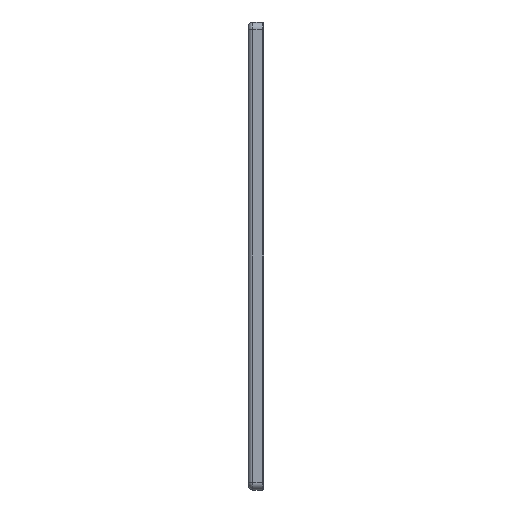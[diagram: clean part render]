
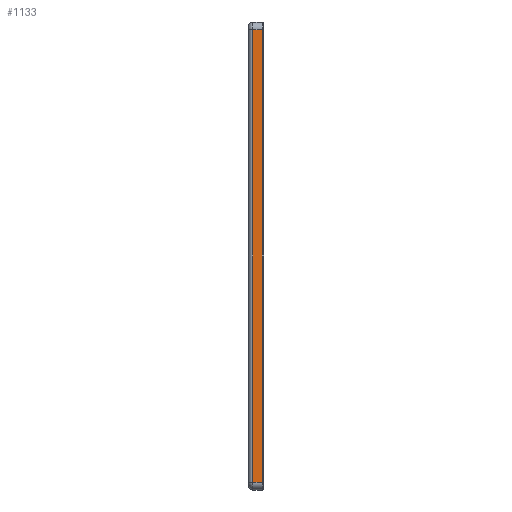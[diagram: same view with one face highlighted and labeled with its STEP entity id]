
A CAD part, left-side view. The second image highlights one B-rep face of the part: STEP entity #1133.
In plain terms, the highlighted planar face has unit normal (-1, 0, 0).
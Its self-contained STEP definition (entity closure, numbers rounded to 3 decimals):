
#1133 = ADVANCED_FACE ( 'NONE', ( #1653 ), #9345, .F. ) ;
#1653 = FACE_OUTER_BOUND ( 'NONE', #5127, .T. ) ;
#4795 = VERTEX_POINT ( 'NONE', #9679 ) ;
#5127 = EDGE_LOOP ( 'NONE', ( #6080, #6084, #6082, #6086 ) ) ;
#6080 = ORIENTED_EDGE ( 'NONE', *, *, #9867, .T. ) ;
#6082 = ORIENTED_EDGE ( 'NONE', *, *, #9951, .T. ) ;
#6084 = ORIENTED_EDGE ( 'NONE', *, *, #9966, .T. ) ;
#6086 = ORIENTED_EDGE ( 'NONE', *, *, #9894, .T. ) ;
#6279 = LINE ( 'NONE', #6587, #6288 ) ;
#6288 = VECTOR ( 'NONE', #6600, 1000. ) ;
#6298 = LINE ( 'NONE', #6666, #6317 ) ;
#6317 = VECTOR ( 'NONE', #6679, 1000. ) ;
#6346 = LINE ( 'NONE', #6835, #6376 ) ;
#6376 = VECTOR ( 'NONE', #6848, 1000. ) ;
#6377 = LINE ( 'NONE', #6879, #6392 ) ;
#6392 = VECTOR ( 'NONE', #6892, 1000. ) ;
#6587 = CARTESIAN_POINT ( 'NONE',  ( -300., 10., -145. ) ) ;
#6600 = DIRECTION ( 'NONE',  ( 0., -1., 0. ) ) ;
#6666 = CARTESIAN_POINT ( 'NONE',  ( -300., 7., 150. ) ) ;
#6679 = DIRECTION ( 'NONE',  ( 0., 0., -1. ) ) ;
#6835 = CARTESIAN_POINT ( 'NONE',  ( -300., 10., 145. ) ) ;
#6848 = DIRECTION ( 'NONE',  ( 0., 1., 0. ) ) ;
#6879 = CARTESIAN_POINT ( 'NONE',  ( -300., 1., 150. ) ) ;
#6892 = DIRECTION ( 'NONE',  ( 0., 0., 1. ) ) ;
#7144 = VERTEX_POINT ( 'NONE', #9706 ) ;
#8068 = VERTEX_POINT ( 'NONE', #9702 ) ;
#8128 = VERTEX_POINT ( 'NONE', #9707 ) ;
#9344 = CARTESIAN_POINT ( 'NONE',  ( -300., 10., 150. ) ) ;
#9345 = PLANE ( 'NONE',  #10349 ) ;
#9348 = DIRECTION ( 'NONE',  ( 1., 0., 0. ) ) ;
#9349 = DIRECTION ( 'NONE',  ( 0., 0., -1. ) ) ;
#9679 = CARTESIAN_POINT ( 'NONE',  ( -300., 1., 145. ) ) ;
#9702 = CARTESIAN_POINT ( 'NONE',  ( -300., 7., -145. ) ) ;
#9706 = CARTESIAN_POINT ( 'NONE',  ( -300., 7., 145. ) ) ;
#9707 = CARTESIAN_POINT ( 'NONE',  ( -300., 1., -145. ) ) ;
#9867 = EDGE_CURVE ( 'NONE', #8068, #8128, #6279, .T. ) ;
#9894 = EDGE_CURVE ( 'NONE', #7144, #8068, #6298, .T. ) ;
#9951 = EDGE_CURVE ( 'NONE', #4795, #7144, #6346, .T. ) ;
#9966 = EDGE_CURVE ( 'NONE', #8128, #4795, #6377, .T. ) ;
#10349 = AXIS2_PLACEMENT_3D ( 'NONE', #9344, #9348, #9349 ) ;
